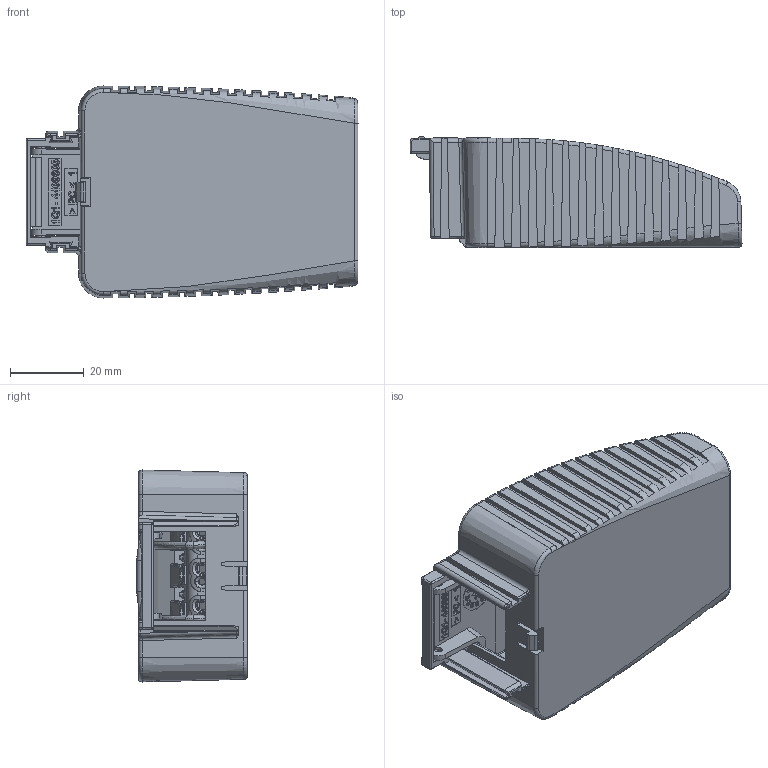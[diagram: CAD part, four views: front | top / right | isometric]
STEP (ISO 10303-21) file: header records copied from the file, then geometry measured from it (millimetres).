
FILE_DESCRIPTION (( 'STEP AP214' ), '1' );
FILE_NAME ('3D ASSY model_with D style cable clamp.STEP', '2022-11-23T01:33:26', ( '' ), ( '' ), 'SwSTEP 2.0', 'SolidWorks 2020', '' );
FILE_SCHEMA (( 'AUTOMOTIVE_DESIGN' ));
Length unit declared in the file: millimetre
Products named in the file (6): assy_cable clamp d type_lp_3 pin connector ASSY; 3 pin connector_cs350-16-3p-cg; 3D ASSY model_with D style cable clamp; pan head cross recess screw_iso_ISO 7045 - M4 x 8 - Z --- 8N; base_cable clamp_d type lp; cover_cable clamp_d type lp_v2_Standard
Assembly tree (6 placements, depth 3):
  3D ASSY model_with D style cable clamp
    assy_cable clamp d type_lp_3 pin connector ASSY
      base_cable clamp_d type lp
      cover_cable clamp_d type lp_v2_Standard
      3 pin connector_cs350-16-3p-cg
      pan head cross recess screw_iso_ISO 7045 - M4 x 8 - Z --- 8N  x2
Bounding box: 89.96 x 30.03 x 57.45 mm (x, y, z)
Volume: 34764.6 mm3; surface area: 47702.4 mm2
Topology: 7 solids, 7 shells, 3971 faces, 11402 edges, 7409 vertices
Faces by surface type: plane 2296, bspline 859, cylinder 578, cone 183, torus 43, sphere 12
Entity records: 175995 total; most frequent: CARTESIAN_POINT 81264, ORIENTED_EDGE 22622, DIRECTION 15169, EDGE_CURVE 11311, VERTEX_POINT 7358, LINE 6847, VECTOR 6847, AXIS2_PLACEMENT_3D 4161
